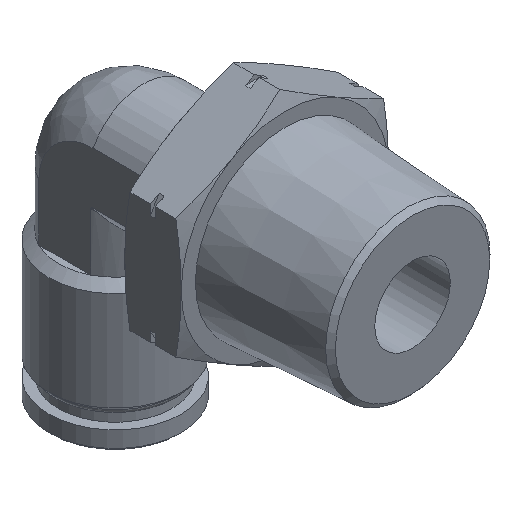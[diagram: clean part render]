
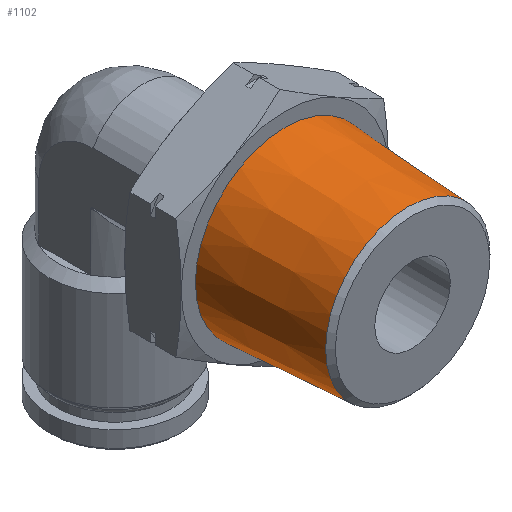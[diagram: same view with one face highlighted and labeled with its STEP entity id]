
A CAD part, isometric view. The second image highlights one B-rep face of the part: STEP entity #1102.
In plain terms, the highlighted conical face has half-angle 3.5 degrees and reference radius 9.087 mm.
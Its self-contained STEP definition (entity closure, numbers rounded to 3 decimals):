
#31=CONICAL_SURFACE('',#1210,9.087,0.061);
#111=FACE_OUTER_BOUND('',#181,.T.);
#181=EDGE_LOOP('',(#826,#827,#828,#829,#830));
#247=CIRCLE('',#1206,8.705);
#248=CIRCLE('',#1207,8.705);
#250=CIRCLE('',#1211,9.5);
#347=LINE('',#1827,#419);
#419=VECTOR('',#1433,9.087);
#497=VERTEX_POINT('',#1817);
#498=VERTEX_POINT('',#1819);
#500=VERTEX_POINT('',#1826);
#621=EDGE_CURVE('',#497,#498,#247,.T.);
#622=EDGE_CURVE('',#498,#497,#248,.T.);
#624=EDGE_CURVE('',#498,#500,#347,.T.);
#625=EDGE_CURVE('',#500,#500,#250,.T.);
#826=ORIENTED_EDGE('',*,*,#621,.F.);
#827=ORIENTED_EDGE('',*,*,#622,.F.);
#828=ORIENTED_EDGE('',*,*,#624,.T.);
#829=ORIENTED_EDGE('',*,*,#625,.F.);
#830=ORIENTED_EDGE('',*,*,#624,.F.);
#1102=ADVANCED_FACE('',(#111),#31,.T.);
#1206=AXIS2_PLACEMENT_3D('',#1820,#1423,#1424);
#1207=AXIS2_PLACEMENT_3D('',#1821,#1425,#1426);
#1210=AXIS2_PLACEMENT_3D('',#1825,#1431,#1432);
#1211=AXIS2_PLACEMENT_3D('',#1828,#1434,#1435);
#1423=DIRECTION('center_axis',(0.,-1.,0.));
#1424=DIRECTION('ref_axis',(0.,0.,1.));
#1425=DIRECTION('center_axis',(0.,-1.,0.));
#1426=DIRECTION('ref_axis',(0.,0.,1.));
#1431=DIRECTION('center_axis',(0.,1.,0.));
#1432=DIRECTION('ref_axis',(0.,0.,-1.));
#1433=DIRECTION('',(0.,0.998,0.061));
#1434=DIRECTION('center_axis',(0.,1.,0.));
#1435=DIRECTION('ref_axis',(0.,0.,-1.));
#1817=CARTESIAN_POINT('',(0.,-20.501,-8.705));
#1819=CARTESIAN_POINT('',(0.,-20.501,8.705));
#1820=CARTESIAN_POINT('Origin',(0.,-20.501,
0.));
#1821=CARTESIAN_POINT('Origin',(0.,-20.501,
0.));
#1825=CARTESIAN_POINT('Origin',(0.,-14.25,0.));
#1826=CARTESIAN_POINT('',(0.,-7.5,9.5));
#1827=CARTESIAN_POINT('',(0.,-14.25,9.087));
#1828=CARTESIAN_POINT('Origin',(0.,-7.5,0.));
